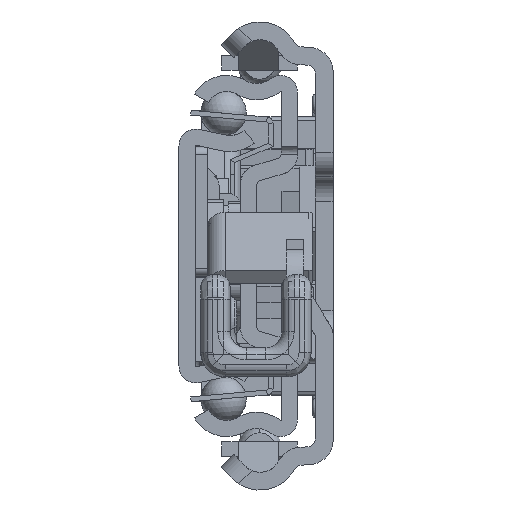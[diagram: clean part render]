
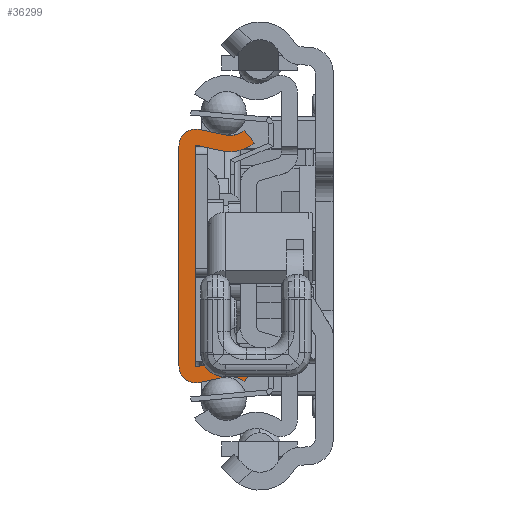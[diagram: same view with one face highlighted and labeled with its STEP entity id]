
A CAD part, left-side view. The second image highlights one B-rep face of the part: STEP entity #36299.
In plain terms, the highlighted planar face has unit normal (-1, 0, 0).
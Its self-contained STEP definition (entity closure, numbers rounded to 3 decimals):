
#32361=CARTESIAN_POINT('',(0.,-6.29,-17.65));
#32362=DIRECTION('',(-1.,0.,0.));
#32363=DIRECTION('',(0.,-0.629,0.778));
#32364=AXIS2_PLACEMENT_3D('',#32361,#32362,#32363);
#32366=DIRECTION('',(0.,0.977,-0.213));
#32367=VECTOR('',#32366,3.218);
#32368=CARTESIAN_POINT('',(0.,-5.692,-14.915));
#32369=LINE('',#32368,#32367);
#32370=CARTESIAN_POINT('',(0.,-2.1,-13.55));
#32371=DIRECTION('',(1.,0.,0.));
#32372=DIRECTION('',(0.,-0.213,-0.977));
#32373=AXIS2_PLACEMENT_3D('',#32370,#32371,#32372);
#32375=DIRECTION('',(0.,0.,1.));
#32376=VECTOR('',#32375,27.1);
#32377=CARTESIAN_POINT('',(0.,0.,-13.55));
#32378=LINE('',#32377,#32376);
#32379=CARTESIAN_POINT('',(0.,-2.1,13.55));
#32380=DIRECTION('',(1.,0.,0.));
#32381=DIRECTION('',(0.,1.,0.));
#32382=AXIS2_PLACEMENT_3D('',#32379,#32380,#32381);
#32384=DIRECTION('',(0.,-0.977,-0.213));
#32385=VECTOR('',#32384,3.218);
#32386=CARTESIAN_POINT('',(0.,-2.548,15.602));
#32387=LINE('',#32386,#32385);
#32388=CARTESIAN_POINT('',(0.,-6.29,17.65));
#32389=DIRECTION('',(-1.,0.,0.));
#32390=DIRECTION('',(0.,0.213,-0.977));
#32391=AXIS2_PLACEMENT_3D('',#32388,#32389,#32390);
#32393=DIRECTION('',(0.,-0.629,-0.778));
#32394=VECTOR('',#32393,2.);
#32395=CARTESIAN_POINT('',(0.,-8.05,15.472));
#32396=LINE('',#32395,#32394);
#32397=CARTESIAN_POINT('',(0.,-6.29,17.65));
#32398=DIRECTION('',(1.,0.,0.));
#32399=DIRECTION('',(0.,-0.629,-0.778));
#32400=AXIS2_PLACEMENT_3D('',#32397,#32398,#32399);
#32402=DIRECTION('',(0.,0.977,0.213));
#32403=VECTOR('',#32402,3.218);
#32404=CARTESIAN_POINT('',(0.,-5.265,12.961));
#32405=LINE('',#32404,#32403);
#32406=CARTESIAN_POINT('',(0.,-2.1,13.55));
#32407=DIRECTION('',(-1.,0.,0.));
#32408=DIRECTION('',(0.,-0.213,0.977));
#32409=AXIS2_PLACEMENT_3D('',#32406,#32407,#32408);
#32411=DIRECTION('',(0.,0.,-1.));
#32412=VECTOR('',#32411,27.1);
#32413=CARTESIAN_POINT('',(0.,-2.,13.55));
#32414=LINE('',#32413,#32412);
#32415=CARTESIAN_POINT('',(0.,-2.1,-13.55));
#32416=DIRECTION('',(-1.,0.,0.));
#32417=DIRECTION('',(0.,1.,0.));
#32418=AXIS2_PLACEMENT_3D('',#32415,#32416,#32417);
#32420=DIRECTION('',(0.,-0.977,0.213));
#32421=VECTOR('',#32420,3.218);
#32422=CARTESIAN_POINT('',(0.,-2.121,-13.648));
#32423=LINE('',#32422,#32421);
#32424=CARTESIAN_POINT('',(0.,-6.29,-17.65));
#32425=DIRECTION('',(1.,0.,0.));
#32426=DIRECTION('',(0.,0.213,0.977));
#32427=AXIS2_PLACEMENT_3D('',#32424,#32425,#32426);
#32429=DIRECTION('',(0.,0.629,-0.778));
#32430=VECTOR('',#32429,2.);
#32431=CARTESIAN_POINT('',(0.,-9.307,-13.917));
#32432=LINE('',#32431,#32430);
#35610=CARTESIAN_POINT('',(0.,-8.05,-15.472));
#35611=CARTESIAN_POINT('',(0.,-5.692,-14.915));
#35612=VERTEX_POINT('',#35610);
#35613=VERTEX_POINT('',#35611);
#35614=CARTESIAN_POINT('',(0.,-2.548,-15.602));
#35615=VERTEX_POINT('',#35614);
#35616=CARTESIAN_POINT('',(0.,0.,-13.55));
#35617=VERTEX_POINT('',#35616);
#35618=CARTESIAN_POINT('',(0.,0.,13.55));
#35619=VERTEX_POINT('',#35618);
#35620=CARTESIAN_POINT('',(0.,-2.548,15.602));
#35621=VERTEX_POINT('',#35620);
#35622=CARTESIAN_POINT('',(0.,-5.692,14.915));
#35623=VERTEX_POINT('',#35622);
#35624=CARTESIAN_POINT('',(0.,-8.05,15.472));
#35625=VERTEX_POINT('',#35624);
#35626=CARTESIAN_POINT('',(0.,-9.307,13.917));
#35627=VERTEX_POINT('',#35626);
#35628=CARTESIAN_POINT('',(0.,-5.265,12.961));
#35629=VERTEX_POINT('',#35628);
#35630=CARTESIAN_POINT('',(0.,-2.121,13.648));
#35631=VERTEX_POINT('',#35630);
#35632=CARTESIAN_POINT('',(0.,-2.,13.55));
#35633=VERTEX_POINT('',#35632);
#35634=CARTESIAN_POINT('',(0.,-2.,-13.55));
#35635=VERTEX_POINT('',#35634);
#35636=CARTESIAN_POINT('',(0.,-2.121,-13.648));
#35637=VERTEX_POINT('',#35636);
#35638=CARTESIAN_POINT('',(0.,-5.265,-12.961));
#35639=VERTEX_POINT('',#35638);
#35640=CARTESIAN_POINT('',(0.,-9.307,-13.917));
#35641=VERTEX_POINT('',#35640);
#36260=CARTESIAN_POINT('',(0.,0.,0.));
#36261=DIRECTION('',(1.,0.,0.));
#36262=DIRECTION('',(0.,-1.,0.));
#36263=AXIS2_PLACEMENT_3D('',#36260,#36261,#36262);
#36264=PLANE('',#36263);
#36266=ORIENTED_EDGE('',*,*,#36265,.T.);
#36268=ORIENTED_EDGE('',*,*,#36267,.T.);
#36270=ORIENTED_EDGE('',*,*,#36269,.T.);
#36272=ORIENTED_EDGE('',*,*,#36271,.T.);
#36274=ORIENTED_EDGE('',*,*,#36273,.T.);
#36276=ORIENTED_EDGE('',*,*,#36275,.T.);
#36278=ORIENTED_EDGE('',*,*,#36277,.T.);
#36280=ORIENTED_EDGE('',*,*,#36279,.T.);
#36282=ORIENTED_EDGE('',*,*,#36281,.T.);
#36284=ORIENTED_EDGE('',*,*,#36283,.T.);
#36286=ORIENTED_EDGE('',*,*,#36285,.T.);
#36288=ORIENTED_EDGE('',*,*,#36287,.T.);
#36290=ORIENTED_EDGE('',*,*,#36289,.T.);
#36292=ORIENTED_EDGE('',*,*,#36291,.T.);
#36294=ORIENTED_EDGE('',*,*,#36293,.T.);
#36296=ORIENTED_EDGE('',*,*,#36295,.T.);
#36297=EDGE_LOOP('',(#36266,#36268,#36270,#36272,#36274,#36276,#36278,#36280,
#36282,#36284,#36286,#36288,#36290,#36292,#36294,#36296));
#36298=FACE_OUTER_BOUND('',#36297,.F.);
#32365=CIRCLE('',#32364,2.8);
#32374=CIRCLE('',#32373,2.1);
#32383=CIRCLE('',#32382,2.1);
#32392=CIRCLE('',#32391,2.8);
#32401=CIRCLE('',#32400,4.8);
#32410=CIRCLE('',#32409,0.1);
#32419=CIRCLE('',#32418,0.1);
#32428=CIRCLE('',#32427,4.8);
#36265=EDGE_CURVE('',#35612,#35613,#32365,.T.);
#36267=EDGE_CURVE('',#35613,#35615,#32369,.T.);
#36269=EDGE_CURVE('',#35615,#35617,#32374,.T.);
#36271=EDGE_CURVE('',#35617,#35619,#32378,.T.);
#36273=EDGE_CURVE('',#35619,#35621,#32383,.T.);
#36275=EDGE_CURVE('',#35621,#35623,#32387,.T.);
#36277=EDGE_CURVE('',#35623,#35625,#32392,.T.);
#36279=EDGE_CURVE('',#35625,#35627,#32396,.T.);
#36281=EDGE_CURVE('',#35627,#35629,#32401,.T.);
#36283=EDGE_CURVE('',#35629,#35631,#32405,.T.);
#36285=EDGE_CURVE('',#35631,#35633,#32410,.T.);
#36287=EDGE_CURVE('',#35633,#35635,#32414,.T.);
#36289=EDGE_CURVE('',#35635,#35637,#32419,.T.);
#36291=EDGE_CURVE('',#35637,#35639,#32423,.T.);
#36293=EDGE_CURVE('',#35639,#35641,#32428,.T.);
#36295=EDGE_CURVE('',#35641,#35612,#32432,.T.);
#36299=ADVANCED_FACE('',(#36298),#36264,.F.);
